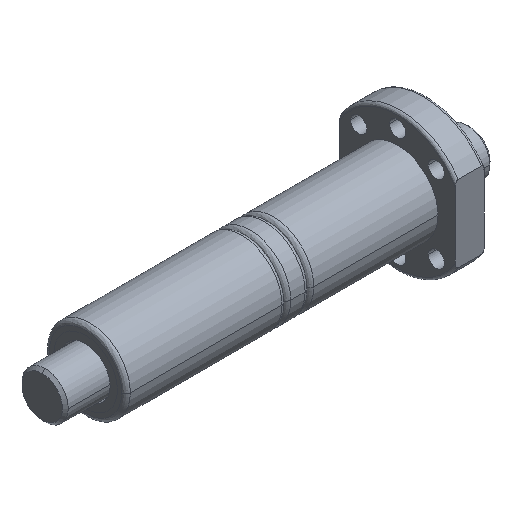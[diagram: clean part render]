
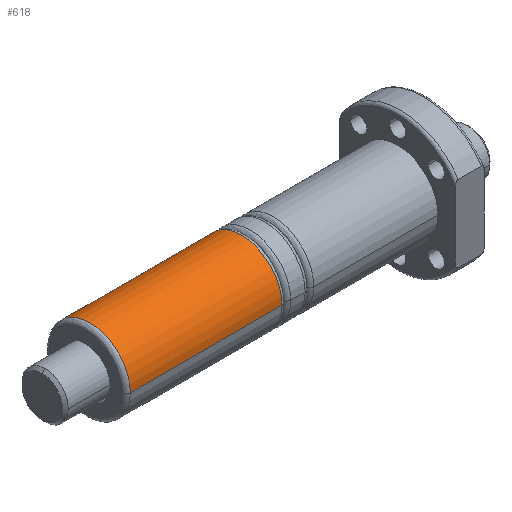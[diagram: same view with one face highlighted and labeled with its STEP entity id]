
A CAD part, isometric view. The second image highlights one B-rep face of the part: STEP entity #618.
In plain terms, the highlighted cylindrical face has radius 14 mm (diameter 28 mm), a partial arc.
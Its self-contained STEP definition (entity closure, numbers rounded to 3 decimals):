
#577 = EDGE_CURVE ( 'NONE', #604, #600, #1528, .T. ) ;
#600 = VERTEX_POINT ( 'NONE', #1552 ) ;
#604 = VERTEX_POINT ( 'NONE', #1568 ) ;
#617 = EDGE_LOOP ( 'NONE', ( #636, #652, #640, #642 ) ) ;
#618 = ADVANCED_FACE ( 'NONE', ( #1705 ), #1701, .T. ) ;
#623 = VERTEX_POINT ( 'NONE', #1690 ) ;
#635 = VERTEX_POINT ( 'NONE', #1827 ) ;
#636 = ORIENTED_EDGE ( 'NONE', *, *, #577, .T. ) ;
#640 = ORIENTED_EDGE ( 'NONE', *, *, #645, .T. ) ;
#641 = EDGE_CURVE ( 'NONE', #604, #635, #1878, .T. ) ;
#642 = ORIENTED_EDGE ( 'NONE', *, *, #641, .F. ) ;
#645 = EDGE_CURVE ( 'NONE', #623, #635, #1782, .T. ) ;
#648 = EDGE_CURVE ( 'NONE', #600, #623, #1820, .T. ) ;
#652 = ORIENTED_EDGE ( 'NONE', *, *, #648, .T. ) ;
#1528 = CIRCLE ( 'NONE', #1529, 14. ) ;
#1529 = AXIS2_PLACEMENT_3D ( 'NONE', #1577, #1576, #1594 ) ;
#1552 = CARTESIAN_POINT ( 'NONE',  ( -131.5, -14., 0. ) ) ;
#1568 = CARTESIAN_POINT ( 'NONE',  ( -131.5, 14., 0. ) ) ;
#1576 = DIRECTION ( 'NONE',  ( 1., 0., 0. ) ) ;
#1577 = CARTESIAN_POINT ( 'NONE',  ( -131.5, 0., 0. ) ) ;
#1594 = DIRECTION ( 'NONE',  ( 0., 1., 0. ) ) ;
#1690 = CARTESIAN_POINT ( 'NONE',  ( -79., -14., 0. ) ) ;
#1693 = DIRECTION ( 'NONE',  ( 1., 0., 0. ) ) ;
#1700 = CARTESIAN_POINT ( 'NONE',  ( -148., 0., 0. ) ) ;
#1701 = CYLINDRICAL_SURFACE ( 'NONE', #1712, 14. ) ;
#1705 = FACE_OUTER_BOUND ( 'NONE', #617, .T. ) ;
#1708 = DIRECTION ( 'NONE',  ( 0., 1., 0. ) ) ;
#1712 = AXIS2_PLACEMENT_3D ( 'NONE', #1700, #1693, #1708 ) ;
#1740 = DIRECTION ( 'NONE',  ( 1., 0., 0. ) ) ;
#1781 = CARTESIAN_POINT ( 'NONE',  ( -148., -14., 0. ) ) ;
#1782 = CIRCLE ( 'NONE', #1784, 14. ) ;
#1783 = DIRECTION ( 'NONE',  ( 1., 0., 0. ) ) ;
#1784 = AXIS2_PLACEMENT_3D ( 'NONE', #1819, #1818, #1817 ) ;
#1811 = VECTOR ( 'NONE', #1740, 1000. ) ;
#1817 = DIRECTION ( 'NONE',  ( 0., 1., 0. ) ) ;
#1818 = DIRECTION ( 'NONE',  ( -1., 0., 0. ) ) ;
#1819 = CARTESIAN_POINT ( 'NONE',  ( -79., 0., 0. ) ) ;
#1820 = LINE ( 'NONE', #1781, #1811 ) ;
#1827 = CARTESIAN_POINT ( 'NONE',  ( -79., 14., 0. ) ) ;
#1876 = VECTOR ( 'NONE', #1783, 1000. ) ;
#1877 = CARTESIAN_POINT ( 'NONE',  ( -148., 14., 0. ) ) ;
#1878 = LINE ( 'NONE', #1877, #1876 ) ;
